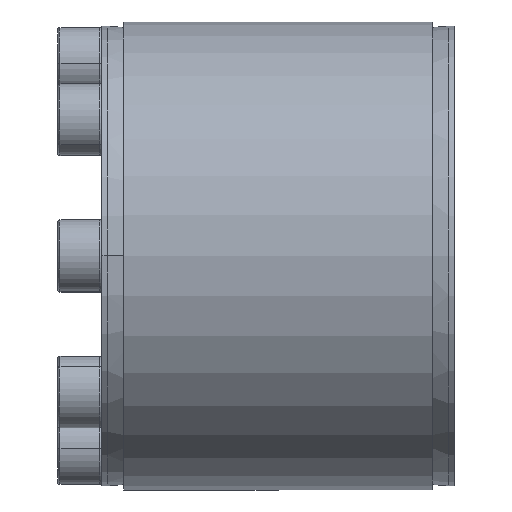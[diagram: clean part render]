
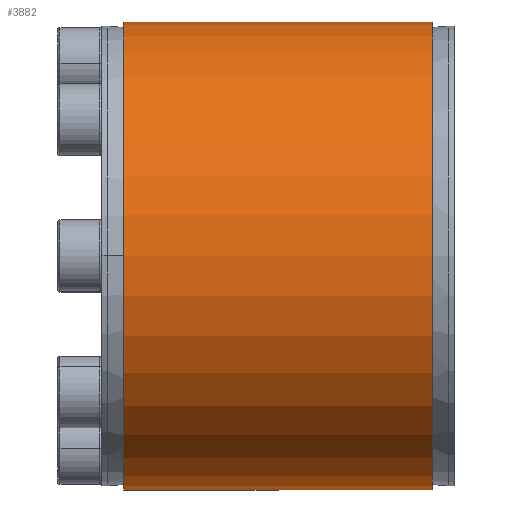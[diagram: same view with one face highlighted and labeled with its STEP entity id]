
A CAD part, top view. The second image highlights one B-rep face of the part: STEP entity #3882.
In plain terms, the highlighted cylindrical face has radius 42.5 mm (diameter 85 mm), a partial arc.
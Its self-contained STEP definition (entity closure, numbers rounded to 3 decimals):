
#40 = DIRECTION ( 'NONE',  ( 0., 1., 0. ) ) ;
#100 = VECTOR ( 'NONE', #6393, 1000. ) ;
#108 = CIRCLE ( 'NONE', #572, 42.5 ) ;
#185 = DIRECTION ( 'NONE',  ( 1., 0., 0. ) ) ;
#324 = DIRECTION ( 'NONE',  ( 0., 1., 0. ) ) ;
#361 = ORIENTED_EDGE ( 'NONE', *, *, #529, .F. ) ;
#525 = CARTESIAN_POINT ( 'NONE',  ( -26.395, -46., 0. ) ) ;
#529 = EDGE_CURVE ( 'NONE', #3356, #1448, #6260, .T. ) ;
#554 = DIRECTION ( 'NONE',  ( 1., 0., 0. ) ) ;
#572 = AXIS2_PLACEMENT_3D ( 'NONE', #1119, #554, #40 ) ;
#1119 = CARTESIAN_POINT ( 'NONE',  ( 29.605, -3.5, 0. ) ) ;
#1366 = DIRECTION ( 'NONE',  ( 0., 1., 0. ) ) ;
#1448 = VERTEX_POINT ( 'NONE', #3569 ) ;
#1483 = LINE ( 'NONE', #2889, #100 ) ;
#2010 = ORIENTED_EDGE ( 'NONE', *, *, #2481, .F. ) ;
#2021 = VERTEX_POINT ( 'NONE', #6480 ) ;
#2296 = FACE_OUTER_BOUND ( 'NONE', #3659, .T. ) ;
#2421 = DIRECTION ( 'NONE',  ( 1., 0., 0. ) ) ;
#2481 = EDGE_CURVE ( 'NONE', #1448, #2021, #108, .T. ) ;
#2594 = AXIS2_PLACEMENT_3D ( 'NONE', #4924, #2421, #1366 ) ;
#2846 = CARTESIAN_POINT ( 'NONE',  ( 47.131, 39., 0. ) ) ;
#2889 = CARTESIAN_POINT ( 'NONE',  ( 47.131, -46., 0. ) ) ;
#3001 = EDGE_CURVE ( 'NONE', #5806, #2021, #1483, .T. ) ;
#3356 = VERTEX_POINT ( 'NONE', #3945 ) ;
#3412 = DIRECTION ( 'NONE',  ( 1., 0., 0. ) ) ;
#3569 = CARTESIAN_POINT ( 'NONE',  ( 29.605, 39., 0. ) ) ;
#3659 = EDGE_LOOP ( 'NONE', ( #6299, #6514, #2010, #361 ) ) ;
#3882 = ADVANCED_FACE ( 'NONE', ( #2296 ), #5836, .T. ) ;
#3945 = CARTESIAN_POINT ( 'NONE',  ( -26.395, 39., 0. ) ) ;
#4683 = CIRCLE ( 'NONE', #5596, 42.5 ) ;
#4924 = CARTESIAN_POINT ( 'NONE',  ( 47.131, -3.5, 0. ) ) ;
#5578 = EDGE_CURVE ( 'NONE', #3356, #5806, #4683, .T. ) ;
#5596 = AXIS2_PLACEMENT_3D ( 'NONE', #6445, #3412, #324 ) ;
#5806 = VERTEX_POINT ( 'NONE', #525 ) ;
#5836 = CYLINDRICAL_SURFACE ( 'NONE', #2594, 42.5 ) ;
#6101 = VECTOR ( 'NONE', #185, 1000. ) ;
#6260 = LINE ( 'NONE', #2846, #6101 ) ;
#6299 = ORIENTED_EDGE ( 'NONE', *, *, #5578, .T. ) ;
#6393 = DIRECTION ( 'NONE',  ( 1., 0., 0. ) ) ;
#6445 = CARTESIAN_POINT ( 'NONE',  ( -26.395, -3.5, 0. ) ) ;
#6480 = CARTESIAN_POINT ( 'NONE',  ( 29.605, -46., 0. ) ) ;
#6514 = ORIENTED_EDGE ( 'NONE', *, *, #3001, .T. ) ;
